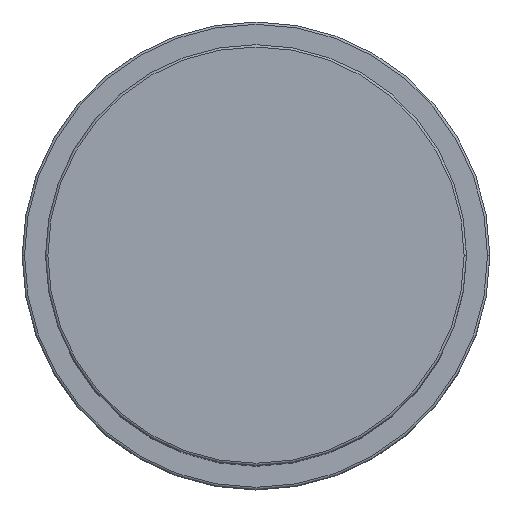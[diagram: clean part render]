
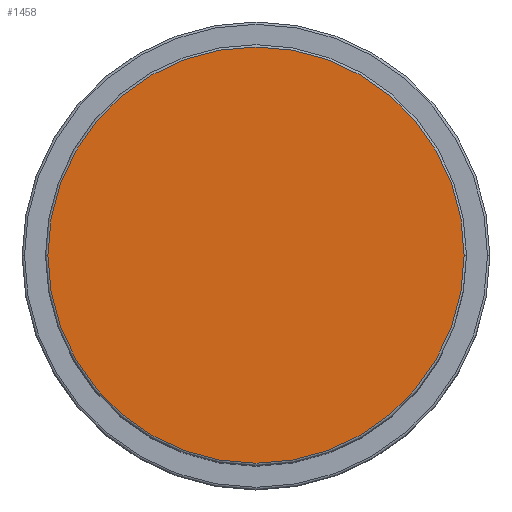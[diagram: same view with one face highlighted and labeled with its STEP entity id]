
A CAD part, top view. The second image highlights one B-rep face of the part: STEP entity #1458.
In plain terms, the highlighted planar face has unit normal (0, 0, 1).
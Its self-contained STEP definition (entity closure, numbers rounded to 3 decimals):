
#1 = EDGE_CURVE ( 'NONE', #1237, #1356, #1609, .T. ) ;
#8 = CARTESIAN_POINT ( 'NONE',  ( 0., 0., 107. ) ) ;
#38 = EDGE_LOOP ( 'NONE', ( #1376, #359 ) ) ;
#108 = CIRCLE ( 'NONE', #465, 44.5 ) ;
#182 = CARTESIAN_POINT ( 'NONE',  ( 0., 0., 107. ) ) ;
#359 = ORIENTED_EDGE ( 'NONE', *, *, #609, .T. ) ;
#465 = AXIS2_PLACEMENT_3D ( 'NONE', #182, #546, #1553 ) ;
#475 = FACE_OUTER_BOUND ( 'NONE', #38, .T. ) ;
#546 = DIRECTION ( 'NONE',  ( 0., 0., 1. ) ) ;
#609 = EDGE_CURVE ( 'NONE', #1356, #1237, #108, .T. ) ;
#767 = CARTESIAN_POINT ( 'NONE',  ( 0., 0., 107. ) ) ;
#901 = DIRECTION ( 'NONE',  ( 0., 0., 1. ) ) ;
#998 = DIRECTION ( 'NONE',  ( 1., 0., 0. ) ) ;
#1142 = PLANE ( 'NONE',  #1529 ) ;
#1236 = CARTESIAN_POINT ( 'NONE',  ( -44.5, 0., 107. ) ) ;
#1237 = VERTEX_POINT ( 'NONE', #1311 ) ;
#1268 = AXIS2_PLACEMENT_3D ( 'NONE', #8, #901, #1418 ) ;
#1311 = CARTESIAN_POINT ( 'NONE',  ( 44.5, 0., 107. ) ) ;
#1356 = VERTEX_POINT ( 'NONE', #1236 ) ;
#1376 = ORIENTED_EDGE ( 'NONE', *, *, #1, .T. ) ;
#1418 = DIRECTION ( 'NONE',  ( 1., 0., 0. ) ) ;
#1458 = ADVANCED_FACE ( 'NONE', ( #475 ), #1142, .T. ) ;
#1511 = DIRECTION ( 'NONE',  ( 0., 0., 1. ) ) ;
#1529 = AXIS2_PLACEMENT_3D ( 'NONE', #767, #1511, #998 ) ;
#1553 = DIRECTION ( 'NONE',  ( 1., 0., 0. ) ) ;
#1609 = CIRCLE ( 'NONE', #1268, 44.5 ) ;
